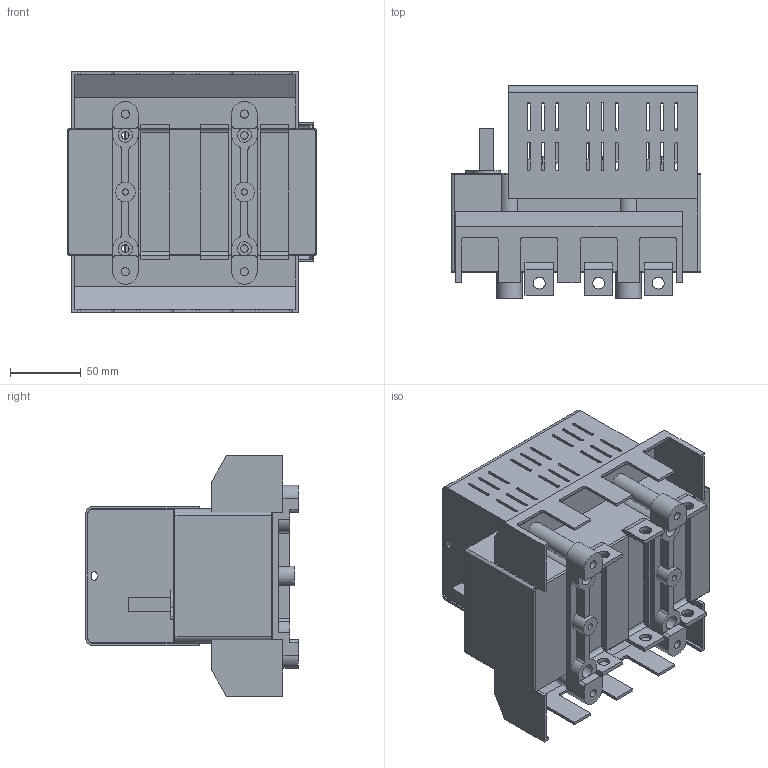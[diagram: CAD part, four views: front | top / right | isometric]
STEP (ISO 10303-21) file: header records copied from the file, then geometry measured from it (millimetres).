
FILE_DESCRIPTION(/* description */ (''),/* implementation_level */ '2;1');
FILE_NAME(/* name */ 'RAB 00 P3 C z oslona zaciskow.stp',/* time_stamp */ '2021-08-19T11:46:00+02:00',/* author */ (''),/* organization */ (''),/* preprocessor_version */ 'ST-DEVELOPER v18.1',/* originating_system */ 'SIEMENS PLM Software NX 1965',/* authorisation */ '');
FILE_SCHEMA (('AUTOMOTIVE_DESIGN { 1 0 10303 214 3 1 1 1 }'));
Length unit declared in the file: millimetre
Products named in the file (1): RAB 00 P3 C z oslona zaciskow_stp
Bounding box: 176 x 150 x 169.8 mm (x, y, z)
Volume: 1308298.3 mm3; surface area: 279902.1 mm2
Topology: 1 solids, 1 shells, 956 faces, 2766 edges, 1810 vertices
Faces by surface type: plane 602, cylinder 342, torus 7, bspline 5
Full cylindrical faces by diameter (mm): 2.7 x4, 4.3 x2, 5 x6, 5.3 x4, 5.8 x4, 8.5 x6, 10 x12, 13 x4, 14 x2
Entity records: 31357 total; most frequent: CARTESIAN_POINT 5609, ORIENTED_EDGE 5380, DIRECTION 5302, EDGE_CURVE 2690, LINE 1932, VECTOR 1932, VERTEX_POINT 1778, AXIS2_PLACEMENT_3D 1685
